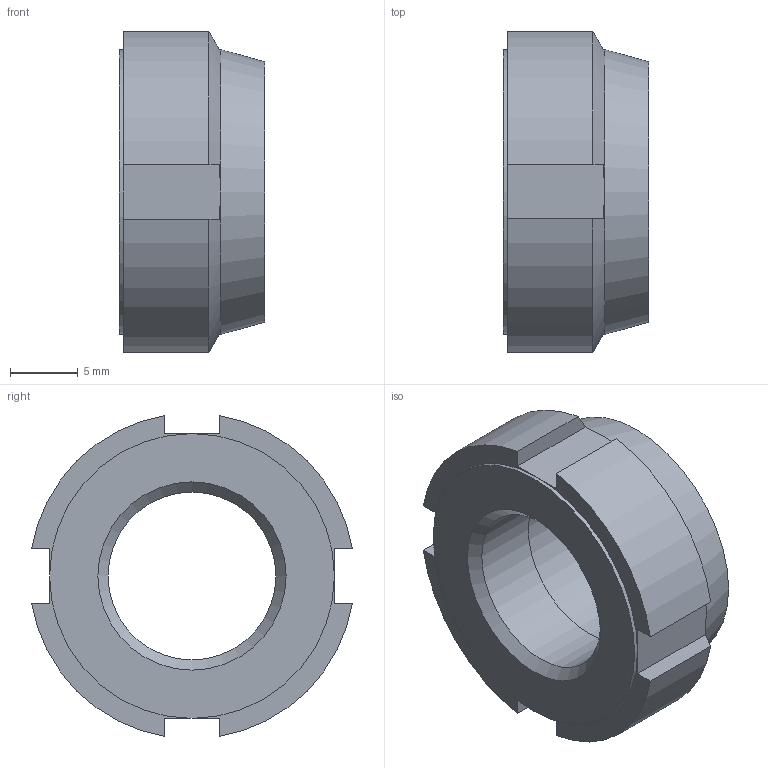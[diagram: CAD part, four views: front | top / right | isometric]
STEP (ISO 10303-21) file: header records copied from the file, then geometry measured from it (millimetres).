
FILE_DESCRIPTION( ( 'STEP AP203' ), '1' );
FILE_NAME( 'C:/Temp/Ganter_Step_05_03_2020/data/3_2/gn1804_1/Slotted locknut self-locking GN 1804.1-M14x1,5.stp', '2020-03-13T05:25:13', ( 'License CC BY-ND 4.0' ), ( 'CADENAS' ), ' ', 'PARTsolutions', ' ' );
FILE_SCHEMA( ( 'CONFIG_CONTROL_DESIGN' ) );
Length unit declared in the file: millimetre
Products named in the file (1): _Slotted locknut self-locking GN 1804.1-M14x1,5
Bounding box: 10.7 x 23.66 x 23.66 mm (x, y, z)
Volume: 2782.4 mm3; surface area: 1778 mm2
Topology: 1 solids, 1 shells, 34 faces, 79 edges, 49 vertices
Faces by surface type: plane 20, cylinder 8, cone 6
Full cylindrical faces by diameter (mm): 12.376 x1, 12.9 x1, 15 x1, 21 x1
Entity records: 1014 total; most frequent: CARTESIAN_POINT 225, DIRECTION 152, ORIENTED_EDGE 146, EDGE_CURVE 73, AXIS2_PLACEMENT_3D 60, VERTEX_POINT 49, EDGE_LOOP 44, FACE_OUTER_BOUND 38
